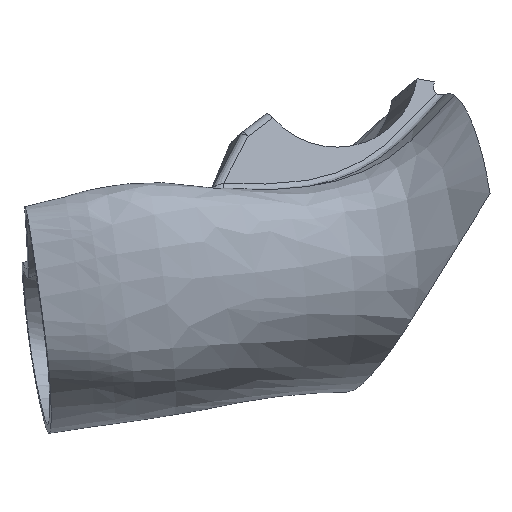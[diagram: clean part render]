
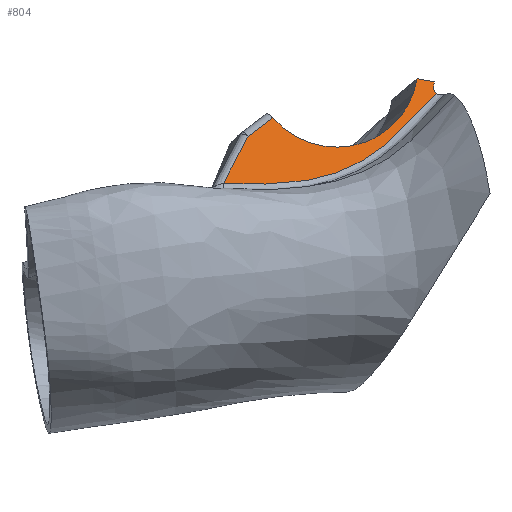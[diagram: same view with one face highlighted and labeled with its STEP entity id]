
A CAD part, top view. The second image highlights one B-rep face of the part: STEP entity #804.
In plain terms, the highlighted planar face has unit normal (0.2, 0.167, 0.966).
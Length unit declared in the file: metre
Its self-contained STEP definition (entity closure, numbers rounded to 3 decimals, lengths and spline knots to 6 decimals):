
#25=CIRCLE('',#857,0.024);
#27=CIRCLE('',#861,0.029);
#48=LINE('',#2893,#96);
#70=LINE('',#4356,#118);
#96=VECTOR('',#902,1.);
#118=VECTOR('',#946,1.);
#141=PLANE('',#862);
#254=ORIENTED_EDGE('',*,*,#487,.F.);
#255=ORIENTED_EDGE('',*,*,#488,.F.);
#256=ORIENTED_EDGE('',*,*,#489,.F.);
#257=ORIENTED_EDGE('',*,*,#485,.T.);
#258=ORIENTED_EDGE('',*,*,#439,.F.);
#259=ORIENTED_EDGE('',*,*,#465,.T.);
#260=ORIENTED_EDGE('',*,*,#490,.F.);
#439=EDGE_CURVE('',#565,#566,#48,.T.);
#465=EDGE_CURVE('',#565,#587,#25,.T.);
#485=EDGE_CURVE('',#601,#566,#27,.T.);
#487=EDGE_CURVE('',#602,#603,#660,.T.);
#488=EDGE_CURVE('',#604,#602,#661,.T.);
#489=EDGE_CURVE('',#601,#604,#662,.T.);
#490=EDGE_CURVE('',#603,#587,#70,.F.);
#565=VERTEX_POINT('',#2892);
#566=VERTEX_POINT('',#2894);
#587=VERTEX_POINT('',#4269);
#601=VERTEX_POINT('',#4324);
#602=VERTEX_POINT('',#4337);
#603=VERTEX_POINT('',#4338);
#604=VERTEX_POINT('',#4351);
#660=B_SPLINE_CURVE_WITH_KNOTS('',3,(#4333,#4334,#4335,#4336),
 .UNSPECIFIED.,.F.,.F.,(4,4),(0.,0.015277),.UNSPECIFIED.);
#661=B_SPLINE_CURVE_WITH_KNOTS('',3,(#4339,#4340,#4341,#4342,#4343,#4344,
#4345,#4346,#4347,#4348,#4349,#4350),.UNSPECIFIED.,.F.,.F.,(4,1,1,1,1,1,
1,1,1,4),(-0.00274,0.006002,0.014744,0.019114,
0.023485,0.032227,0.040969,0.04971,
0.058452,0.067193),.UNSPECIFIED.);
#662=B_SPLINE_CURVE_WITH_KNOTS('',3,(#4352,#4353,#4354,#4355),
 .UNSPECIFIED.,.F.,.F.,(4,4),(0.,0.002161),.UNSPECIFIED.);
#703=EDGE_LOOP('',(#254,#255,#256,#257,#258,#259,#260));
#755=FACE_BOUND('',#703,.T.);
#804=ADVANCED_FACE('',(#755),#141,.F.);
#857=AXIS2_PLACEMENT_3D('',#4268,#919,#920);
#861=AXIS2_PLACEMENT_3D('',#4323,#942,#943);
#862=AXIS2_PLACEMENT_3D('',#4332,#944,#945);
#902=DIRECTION('',(0.968,-0.186,-0.168));
#919=DIRECTION('',(-0.2,-0.167,-0.966));
#920=DIRECTION('',(-0.931,-0.276,0.24));
#942=DIRECTION('',(0.2,0.167,0.966));
#943=DIRECTION('',(0.931,0.276,-0.24));
#944=DIRECTION('',(-0.2,-0.167,-0.966));
#945=DIRECTION('',(-0.938,-0.251,0.238));
#946=DIRECTION('',(-0.772,-0.581,0.26));
#2892=CARTESIAN_POINT('',(-1.23513,-0.317959,0.184362));
#2893=CARTESIAN_POINT('',(-1.23271,-0.318424,0.183941));
#2894=CARTESIAN_POINT('',(-1.23029,-0.318889,0.18352));
#4268=CARTESIAN_POINT('',(-1.258363,-0.313496,0.188403));
#4269=CARTESIAN_POINT('',(-1.275609,-0.328975,0.194646));
#4323=CARTESIAN_POINT('',(-1.258363,-0.313496,0.188403));
#4324=CARTESIAN_POINT('',(-1.2305,-0.320067,0.183767));
#4332=CARTESIAN_POINT('',(-1.257888,-0.315985,0.188734));
#4333=CARTESIAN_POINT('',(-1.289365,-0.347289,0.200656));
#4334=CARTESIAN_POINT('',(-1.287081,-0.342907,0.199426));
#4335=CARTESIAN_POINT('',(-1.284789,-0.338529,0.198196));
#4336=CARTESIAN_POINT('',(-1.282493,-0.334154,0.196965));
#4337=CARTESIAN_POINT('',(-1.289365,-0.347289,0.200656));
#4338=CARTESIAN_POINT('',(-1.282493,-0.334154,0.196965));
#4339=CARTESIAN_POINT('',(-1.229815,-0.322008,0.18396));
#4340=CARTESIAN_POINT('',(-1.231698,-0.324113,0.184713));
#4341=CARTESIAN_POINT('',(-1.235456,-0.328328,0.186219));
#4342=CARTESIAN_POINT('',(-1.240382,-0.333362,0.188108));
#4343=CARTESIAN_POINT('',(-1.244636,-0.337046,0.189625));
#4344=CARTESIAN_POINT('',(-1.249235,-0.3404,0.191156));
#4345=CARTESIAN_POINT('',(-1.255495,-0.343746,0.19303));
#4346=CARTESIAN_POINT('',(-1.263721,-0.346309,0.195176));
#4347=CARTESIAN_POINT('',(-1.272236,-0.347428,0.197132));
#4348=CARTESIAN_POINT('',(-1.280777,-0.3476,0.198931));
#4349=CARTESIAN_POINT('',(-1.286502,-0.347403,0.200082));
#4350=CARTESIAN_POINT('',(-1.289365,-0.347289,0.200656));
#4351=CARTESIAN_POINT('',(-1.229815,-0.322008,0.18396));
#4352=CARTESIAN_POINT('',(-1.2305,-0.320067,0.183767));
#4353=CARTESIAN_POINT('',(-1.23064,-0.320768,0.183917));
#4354=CARTESIAN_POINT('',(-1.23037,-0.321534,0.183993));
#4355=CARTESIAN_POINT('',(-1.229815,-0.322008,0.18396));
#4356=CARTESIAN_POINT('',(-1.275674,-0.329023,0.194667));
